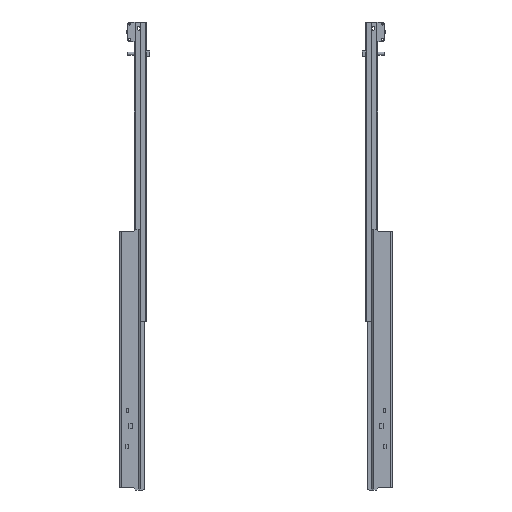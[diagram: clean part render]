
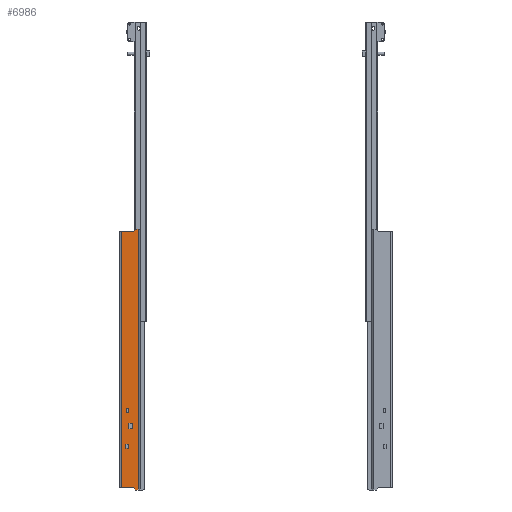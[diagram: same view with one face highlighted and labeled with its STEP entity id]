
A CAD part, front view. The second image highlights one B-rep face of the part: STEP entity #6986.
In plain terms, the highlighted planar face has unit normal (0, -1, 0).
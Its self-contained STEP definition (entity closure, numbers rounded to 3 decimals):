
#215=FACE_BOUND('',#1145,.T.);
#216=FACE_BOUND('',#1146,.T.);
#217=FACE_BOUND('',#1147,.T.);
#748=FACE_OUTER_BOUND('',#1144,.T.);
#1144=EDGE_LOOP('',(#4617,#4618,#4619,#4620,#4621,#4622,#4623,#4624));
#1145=EDGE_LOOP('',(#4625,#4626,#4627,#4628));
#1146=EDGE_LOOP('',(#4629,#4630,#4631,#4632));
#1147=EDGE_LOOP('',(#4633,#4634,#4635,#4636));
#1749=LINE('',#10076,#2365);
#1753=LINE('',#10084,#2369);
#1756=LINE('',#10090,#2372);
#1759=LINE('',#10095,#2375);
#1761=LINE('',#10101,#2377);
#1765=LINE('',#10109,#2381);
#1768=LINE('',#10115,#2384);
#1771=LINE('',#10120,#2387);
#1773=LINE('',#10126,#2389);
#1777=LINE('',#10134,#2393);
#1780=LINE('',#10140,#2396);
#1783=LINE('',#10145,#2399);
#1785=LINE('',#10151,#2401);
#1789=LINE('',#10159,#2405);
#1802=LINE('',#10205,#2418);
#1803=LINE('',#10207,#2419);
#1804=LINE('',#10209,#2420);
#1805=LINE('',#10211,#2421);
#1806=LINE('',#10213,#2422);
#1807=LINE('',#10214,#2423);
#2365=VECTOR('',#8070,8.);
#2369=VECTOR('',#8076,5.);
#2372=VECTOR('',#8081,8.);
#2375=VECTOR('',#8086,5.);
#2377=VECTOR('',#8092,6.);
#2381=VECTOR('',#8098,3.5);
#2384=VECTOR('',#8103,6.);
#2387=VECTOR('',#8108,3.5);
#2389=VECTOR('',#8114,6.);
#2393=VECTOR('',#8120,3.5);
#2396=VECTOR('',#8125,6.);
#2399=VECTOR('',#8130,3.5);
#2401=VECTOR('',#8136,4.243);
#2405=VECTOR('',#8142,18.);
#2418=VECTOR('',#8177,4.);
#2419=VECTOR('',#8178,383.);
#2420=VECTOR('',#8179,4.);
#2421=VECTOR('',#8180,4.243);
#2422=VECTOR('',#8181,18.);
#2423=VECTOR('',#8182,377.);
#2981=VERTEX_POINT('',#10074);
#2982=VERTEX_POINT('',#10075);
#2985=VERTEX_POINT('',#10083);
#2987=VERTEX_POINT('',#10089);
#2989=VERTEX_POINT('',#10099);
#2990=VERTEX_POINT('',#10100);
#2993=VERTEX_POINT('',#10108);
#2995=VERTEX_POINT('',#10114);
#2997=VERTEX_POINT('',#10124);
#2998=VERTEX_POINT('',#10125);
#3001=VERTEX_POINT('',#10133);
#3003=VERTEX_POINT('',#10139);
#3005=VERTEX_POINT('',#10149);
#3006=VERTEX_POINT('',#10150);
#3009=VERTEX_POINT('',#10158);
#3031=VERTEX_POINT('',#10204);
#3032=VERTEX_POINT('',#10206);
#3033=VERTEX_POINT('',#10208);
#3034=VERTEX_POINT('',#10210);
#3035=VERTEX_POINT('',#10212);
#3623=EDGE_CURVE('',#2981,#2982,#1749,.T.);
#3627=EDGE_CURVE('',#2982,#2985,#1753,.T.);
#3630=EDGE_CURVE('',#2985,#2987,#1756,.T.);
#3633=EDGE_CURVE('',#2987,#2981,#1759,.T.);
#3635=EDGE_CURVE('',#2989,#2990,#1761,.T.);
#3639=EDGE_CURVE('',#2990,#2993,#1765,.T.);
#3642=EDGE_CURVE('',#2993,#2995,#1768,.T.);
#3645=EDGE_CURVE('',#2995,#2989,#1771,.T.);
#3647=EDGE_CURVE('',#2997,#2998,#1773,.T.);
#3651=EDGE_CURVE('',#2998,#3001,#1777,.T.);
#3654=EDGE_CURVE('',#3001,#3003,#1780,.T.);
#3657=EDGE_CURVE('',#3003,#2997,#1783,.T.);
#3659=EDGE_CURVE('',#3005,#3006,#1785,.T.);
#3663=EDGE_CURVE('',#3009,#3005,#1789,.T.);
#3686=EDGE_CURVE('',#3031,#3006,#1802,.T.);
#3687=EDGE_CURVE('',#3032,#3031,#1803,.T.);
#3688=EDGE_CURVE('',#3033,#3032,#1804,.T.);
#3689=EDGE_CURVE('',#3033,#3034,#1805,.T.);
#3690=EDGE_CURVE('',#3034,#3035,#1806,.T.);
#3691=EDGE_CURVE('',#3035,#3009,#1807,.T.);
#4617=ORIENTED_EDGE('',*,*,#3663,.T.);
#4618=ORIENTED_EDGE('',*,*,#3659,.T.);
#4619=ORIENTED_EDGE('',*,*,#3686,.F.);
#4620=ORIENTED_EDGE('',*,*,#3687,.F.);
#4621=ORIENTED_EDGE('',*,*,#3688,.F.);
#4622=ORIENTED_EDGE('',*,*,#3689,.T.);
#4623=ORIENTED_EDGE('',*,*,#3690,.T.);
#4624=ORIENTED_EDGE('',*,*,#3691,.T.);
#4625=ORIENTED_EDGE('',*,*,#3623,.T.);
#4626=ORIENTED_EDGE('',*,*,#3627,.T.);
#4627=ORIENTED_EDGE('',*,*,#3630,.T.);
#4628=ORIENTED_EDGE('',*,*,#3633,.T.);
#4629=ORIENTED_EDGE('',*,*,#3635,.T.);
#4630=ORIENTED_EDGE('',*,*,#3639,.T.);
#4631=ORIENTED_EDGE('',*,*,#3642,.T.);
#4632=ORIENTED_EDGE('',*,*,#3645,.T.);
#4633=ORIENTED_EDGE('',*,*,#3647,.T.);
#4634=ORIENTED_EDGE('',*,*,#3651,.T.);
#4635=ORIENTED_EDGE('',*,*,#3654,.T.);
#4636=ORIENTED_EDGE('',*,*,#3657,.T.);
#6362=PLANE('',#7399);
#6986=ADVANCED_FACE('',(#748,#215,#216,#217),#6362,.T.);
#7399=AXIS2_PLACEMENT_3D('',#10203,#8175,#8176);
#8070=DIRECTION('',(0.,0.,1.));
#8076=DIRECTION('',(1.,0.,0.));
#8081=DIRECTION('',(0.,0.,-1.));
#8086=DIRECTION('',(-1.,0.,0.));
#8092=DIRECTION('',(0.,0.,1.));
#8098=DIRECTION('',(1.,0.,0.));
#8103=DIRECTION('',(0.,0.,-1.));
#8108=DIRECTION('',(-1.,0.,0.));
#8114=DIRECTION('',(0.,0.,1.));
#8120=DIRECTION('',(1.,0.,0.));
#8125=DIRECTION('',(0.,0.,-1.));
#8130=DIRECTION('',(-1.,0.,0.));
#8136=DIRECTION('',(0.707,0.,-0.707));
#8142=DIRECTION('',(1.,0.,0.));
#8175=DIRECTION('center_axis',(0.,-1.,0.));
#8176=DIRECTION('ref_axis',(-1.,0.,0.));
#8177=DIRECTION('',(-1.,0.,0.));
#8178=DIRECTION('',(0.,0.,-1.));
#8179=DIRECTION('',(1.,0.,0.));
#8180=DIRECTION('',(-0.707,0.,-0.707));
#8181=DIRECTION('',(-1.,0.,0.));
#8182=DIRECTION('',(0.,0.,-1.));
#10074=CARTESIAN_POINT('',(13.5,0.,-293.));
#10075=CARTESIAN_POINT('',(13.5,0.,-285.));
#10076=CARTESIAN_POINT('',(13.5,0.,-142.5));
#10083=CARTESIAN_POINT('',(18.5,0.,-285.));
#10084=CARTESIAN_POINT('',(22.75,0.,-285.));
#10089=CARTESIAN_POINT('',(18.5,0.,-293.));
#10090=CARTESIAN_POINT('',(18.5,0.,-146.5));
#10095=CARTESIAN_POINT('',(20.25,0.,-293.));
#10099=CARTESIAN_POINT('',(9.,0.,-322.));
#10100=CARTESIAN_POINT('',(9.,0.,-316.));
#10101=CARTESIAN_POINT('',(9.,0.,-158.));
#10108=CARTESIAN_POINT('',(12.5,0.,-316.));
#10109=CARTESIAN_POINT('',(19.75,0.,-316.));
#10114=CARTESIAN_POINT('',(12.5,0.,-322.));
#10115=CARTESIAN_POINT('',(12.5,0.,-161.));
#10120=CARTESIAN_POINT('',(18.,0.,-322.));
#10124=CARTESIAN_POINT('',(10.,0.,-269.));
#10125=CARTESIAN_POINT('',(10.,0.,-263.));
#10126=CARTESIAN_POINT('',(10.,0.,-131.5));
#10133=CARTESIAN_POINT('',(13.5,0.,-263.));
#10134=CARTESIAN_POINT('',(20.25,0.,-263.));
#10139=CARTESIAN_POINT('',(13.5,0.,-269.));
#10140=CARTESIAN_POINT('',(13.5,0.,-134.5));
#10145=CARTESIAN_POINT('',(18.5,0.,-269.));
#10149=CARTESIAN_POINT('',(20.,0.,-380.));
#10150=CARTESIAN_POINT('',(23.,0.,-383.));
#10151=CARTESIAN_POINT('',(-73.25,0.,-286.75));
#10158=CARTESIAN_POINT('',(2.,0.,-380.));
#10159=CARTESIAN_POINT('',(13.5,0.,-380.));
#10203=CARTESIAN_POINT('Origin',(27.,0.,0.));
#10204=CARTESIAN_POINT('',(27.,0.,-383.));
#10205=CARTESIAN_POINT('',(2.,0.,-383.));
#10206=CARTESIAN_POINT('',(27.,0.,0.));
#10207=CARTESIAN_POINT('',(27.,0.,0.));
#10208=CARTESIAN_POINT('',(23.,0.,0.));
#10209=CARTESIAN_POINT('',(2.,0.,0.));
#10210=CARTESIAN_POINT('',(20.,0.,-3.));
#10211=CARTESIAN_POINT('',(24.,0.,1.));
#10212=CARTESIAN_POINT('',(2.,0.,-3.));
#10213=CARTESIAN_POINT('',(23.5,0.,-3.));
#10214=CARTESIAN_POINT('',(2.,0.,0.));
